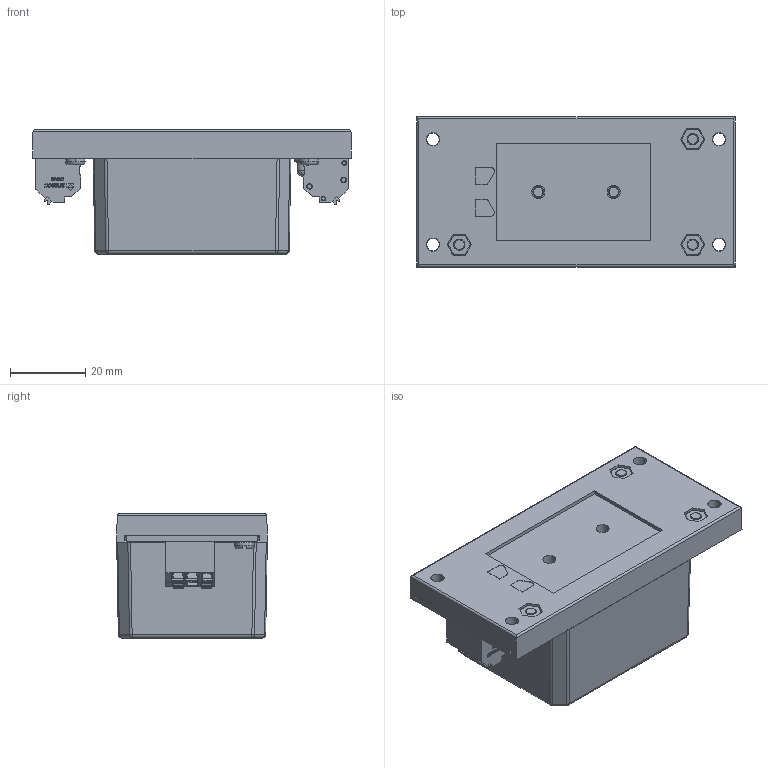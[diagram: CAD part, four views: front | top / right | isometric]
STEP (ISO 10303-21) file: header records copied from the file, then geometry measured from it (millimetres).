
FILE_DESCRIPTION (( 'STEP AP214' ), '1' );
FILE_NAME ('RACM30-SK_277_PMA_20230307.STEP', '2023-09-05T06:57:51', ( '' ), ( '' ), 'SwSTEP 2.0', 'SolidWorks 2023', '' );
FILE_SCHEMA (( 'AUTOMOTIVE_DESIGN' ));
Length unit declared in the file: millimetre
Products named in the file (2): RACM30-SK_277_PMA_20230307; RACM30-xxSK_277_PMA_20230306
Assembly tree (1 placements, depth 2):
  RACM30-SK_277_PMA_20230307
    RACM30-xxSK_277_PMA_20230306
Bounding box: 84.7 x 40 x 33 mm (x, y, z)
Volume: 45725.1 mm3; surface area: 51162 mm2
Topology: 46 solids, 84 shells, 2723 faces, 6779 edges, 4271 vertices
Faces by surface type: plane 1365, cylinder 827, cone 225, torus 169, bspline 109, sphere 28
Entity records: 96094 total; most frequent: CARTESIAN_POINT 31143, ORIENTED_EDGE 13528, DIRECTION 13031, EDGE_CURVE 6764, AXIS2_PLACEMENT_3D 4442, VERTEX_POINT 4271, LINE 4147, VECTOR 4147
